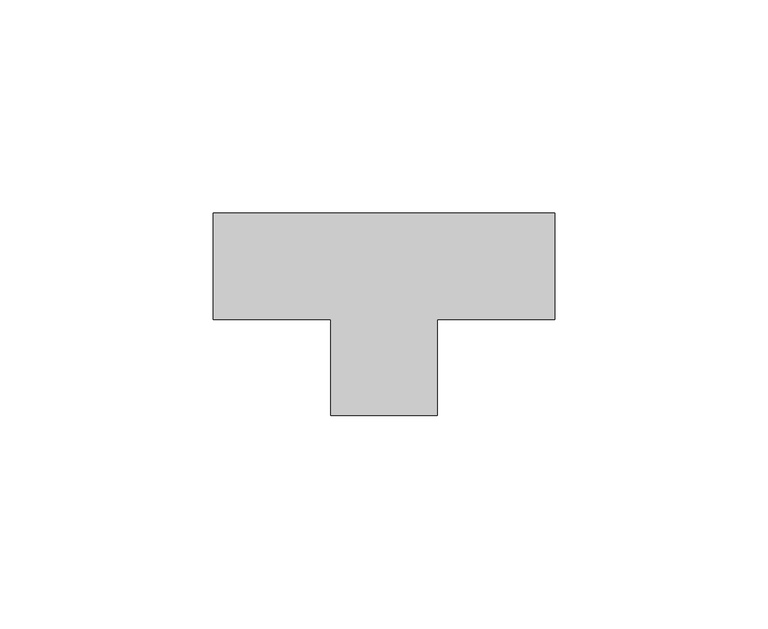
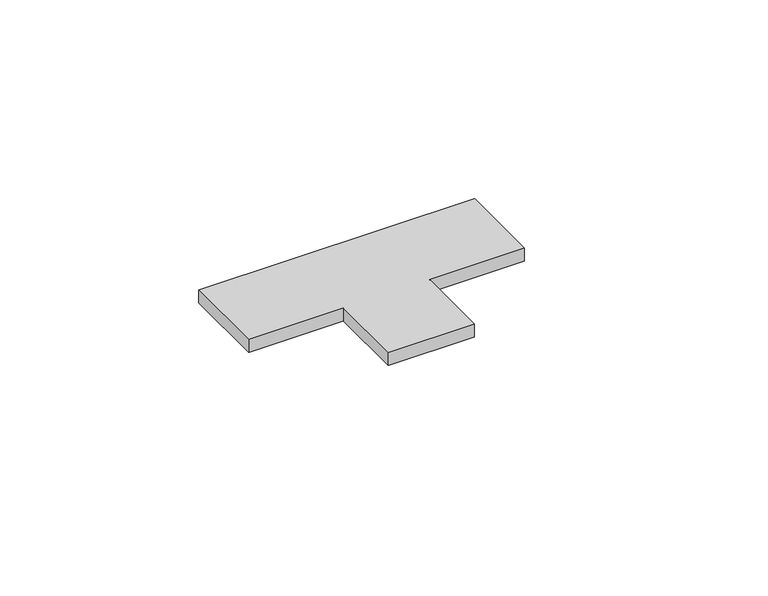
"""IFC4 building model written with IfcOpenShell, lengths in millimetres: duct fitting geometry, КНС_Тройник_Полоса_Неспецифицируемое_DKC : NG3105CU_Медь_80х70 мм."""

import ifcopenshell
import ifcopenshell.guid

model = None  # the IFC model being written
_history = None  # IfcOwnerHistory: only IFC2X3 demands one
_inside = {}  # id of a spatial element -> (the spatial element, [elements in it])
_under = {}  # id of a project, library or spatial element -> (it, [spatial elements below it])
_declared = {}  # id of a project -> (the project, [libraries it declares])
_typed = {}  # id of a type object -> (the type object, [elements of that type])
_made_of = {}  # id of a material, layer set ... -> (it, [elements and type objects made of it])


def new_model(schema):
    """Start an empty IFC model of exactly this schema.

    Asked for "IFC4X3", IfcOpenShell would pick the latest addendum, in which some entities
    have other attributes; the version numbers below select the first issue.
    IFC2X3 requires an IfcOwnerHistory on every rooted entity: one is made here for all.
    """
    global model, _history
    if schema == "IFC4X3":
        model = ifcopenshell.file(schema_version=(4, 3, 0, 0))
    else:
        model = ifcopenshell.file(schema=schema)
    _inside.clear()
    _under.clear()
    _declared.clear()
    _typed.clear()
    _made_of.clear()
    _history = None
    if model.schema == "IFC2X3":
        org = make("IfcOrganization", Name="unknown")
        user = make(
            "IfcPersonAndOrganization",
            ThePerson=make("IfcPerson", FamilyName="unknown"),
            TheOrganization=org,
        )
        app = make(
            "IfcApplication",
            ApplicationDeveloper=org,
            Version="unknown",
            ApplicationFullName="unknown",
            ApplicationIdentifier="unknown",
        )
        _history = make(
            "IfcOwnerHistory",
            OwningUser=user,
            OwningApplication=app,
            ChangeAction="ADDED",
            CreationDate=0,
        )
    return model


def make(cls, **values):
    """One entity of the class cls with the attributes given. An attribute that is None is left unset."""
    return model.create_entity(
        cls, **{name: value for name, value in values.items() if value is not None}
    )


def rooted(cls, **values):
    """An entity with a GlobalId (a new one), such as an element, a storey or a relation."""
    return make(cls, GlobalId=ifcopenshell.guid.new(), OwnerHistory=_history, **values)


def si_unit(unit_type, name, prefix=None):
    """IfcSIUnit, for example si_unit("LENGTHUNIT", "METRE", prefix="MILLI")."""
    return make("IfcSIUnit", UnitType=unit_type, Prefix=prefix, Name=name)


def assignment(units):
    """IfcUnitAssignment: the units of a project."""
    return None if units is None else make("IfcUnitAssignment", Units=units)


def point(xyz):
    """IfcCartesianPoint."""
    return None if xyz is None else make("IfcCartesianPoint", Coordinates=xyz)


def direction(xyz):
    """IfcDirection."""
    return None if xyz is None else make("IfcDirection", DirectionRatios=xyz)


def frame(location, z_axis=None, x_axis=None):
    """IfcAxis2Placement3D, a coordinate frame: its origin and axes. An axis left out is left unset."""
    return make(
        "IfcAxis2Placement3D",
        Location=point(location),
        Axis=direction(z_axis),
        RefDirection=direction(x_axis),
    )


def origin():
    """The frame at (0, 0, 0) with its axes left unset."""
    return frame((0.0, 0.0, 0.0))


def place(relative_to, where):
    """IfcLocalPlacement: puts the frame where relative to a parent placement (None: the world)."""
    return make(
        "IfcLocalPlacement", PlacementRelTo=relative_to, RelativePlacement=where
    )


def context(
    kind, dimensions, precision=None, world=None, true_north=None, identifier=None
):
    """IfcGeometricRepresentationContext, for example the 3D "Model" context."""
    return make(
        "IfcGeometricRepresentationContext",
        ContextIdentifier=identifier,
        ContextType=kind,
        CoordinateSpaceDimension=dimensions,
        Precision=precision,
        WorldCoordinateSystem=world,
        TrueNorth=true_north,
    )


def project(units=None, contexts=None):
    """IfcProject with its units and contexts."""
    return rooted(
        "IfcProject",
        Name="project",
        RepresentationContexts=contexts,
        UnitsInContext=assignment(units),
    )


def spatial(cls, under=None, at=None, **own):
    """A site, building, storey or space (cls), placed at a placement, below another one or the project."""
    s = rooted(cls, ObjectPlacement=at, **own)
    if under is not None:
        _under.setdefault(under.id(), (under, []))[1].append(s)
    return s


def polyline(points):
    """IfcPolyline through the points."""
    return make("IfcPolyline", Points=[point(p) for p in points])


def outline(outer, holes=None, kind="AREA"):
    """IfcArbitraryClosedProfileDef: a profile drawn as a closed curve; with holes, ...WithVoids."""
    if holes is None:
        return make("IfcArbitraryClosedProfileDef", ProfileType=kind, OuterCurve=outer)
    return make(
        "IfcArbitraryProfileDefWithVoids",
        ProfileType=kind,
        OuterCurve=outer,
        InnerCurves=holes,
    )


def extrude(swept, where, along, depth):
    """IfcExtrudedAreaSolid: the profile swept, set in the frame where, extruded along a direction by depth."""
    return make(
        "IfcExtrudedAreaSolid",
        SweptArea=swept,
        Position=where,
        ExtrudedDirection=direction(along),
        Depth=depth,
    )


def shape(context_of_items, identifier, shape_type, items):
    """IfcShapeRepresentation: the items that make up one representation, for example the "Body"."""
    return make(
        "IfcShapeRepresentation",
        ContextOfItems=context_of_items,
        RepresentationIdentifier=identifier,
        RepresentationType=shape_type,
        Items=items,
    )


def source(mapping_origin, context_of_items, identifier, shape_type, items):
    """IfcRepresentationMap: a shape defined once, which mapped items show again and again."""
    return make(
        "IfcRepresentationMap",
        MappingOrigin=mapping_origin,
        MappedRepresentation=shape(context_of_items, identifier, shape_type, items),
    )


def transform(
    local_origin,
    x_axis=None,
    y_axis=None,
    z_axis=None,
    scale=None,
    scale2=None,
    scale3=None,
    uniform=True,
):
    """IfcCartesianTransformationOperator3D, or its non-uniform kind. x_axis, y_axis, z_axis: its Axis1, 2, 3."""
    if uniform:
        return make(
            "IfcCartesianTransformationOperator3D",
            Axis1=direction(x_axis),
            Axis2=direction(y_axis),
            LocalOrigin=point(local_origin),
            Scale=scale,
            Axis3=direction(z_axis),
        )
    return make(
        "IfcCartesianTransformationOperator3DnonUniform",
        Axis1=direction(x_axis),
        Axis2=direction(y_axis),
        LocalOrigin=point(local_origin),
        Scale=scale,
        Axis3=direction(z_axis),
        Scale2=scale2,
        Scale3=scale3,
    )


def mapped(mapping_source, mapping_target):
    """IfcMappedItem: shows the shape of a source again, moved by a transform."""
    return make(
        "IfcMappedItem", MappingSource=mapping_source, MappingTarget=mapping_target
    )


def made_of(thing, what):
    """Note that an element or type object is made of a material, layer set ...; save() writes the relation."""
    if what is not None:
        _made_of.setdefault(what.id(), (what, []))[1].append(thing)
    return thing


def element(
    cls,
    number,
    at=None,
    inside=None,
    cuts=None,
    type_object=None,
    material=None,
    context=None,
    identifier="Body",
    shape_type=None,
    held_by="IfcProductDefinitionShape",
    body=None,
    shapes=None,
    **own,
):
    """One element of the class cls, such as IfcWall. Its Tag is "e" and its number.

    at: its placement. inside: the storey or other place that contains it. cuts: it is an
    opening in that element (IfcRelVoidsElement). A single representation is given by context,
    identifier, shape_type and body (its items); several are given by shapes. held_by: the class
    of the entity that holds the representations. save() writes the other relations.
    """
    e = rooted(cls, Tag="e%d" % number, ObjectPlacement=at, **own)
    if body is not None:
        shapes = [shape(context, identifier, shape_type, body)]
    if shapes is not None:
        e.Representation = make(held_by, Representations=shapes)
    if inside is not None:
        _inside.setdefault(inside.id(), (inside, []))[1].append(e)
    if cuts is not None:
        rooted(
            "IfcRelVoidsElement", RelatingBuildingElement=cuts, RelatedOpeningElement=e
        )
    if type_object is not None:
        _typed.setdefault(type_object.id(), (type_object, []))[1].append(e)
    return made_of(e, material)


def aggregate(whole, parts):
    """IfcRelAggregates: a whole, such as a stair, and the parts it consists of."""
    return rooted("IfcRelAggregates", RelatingObject=whole, RelatedObjects=parts)


def save(model, path):
    """Write the relations noted so far, then the file.

    IfcRelAggregates (storeys below a building ...), IfcRelContainedInSpatialStructure (elements
    in a storey), IfcRelDefinesByType, IfcRelAssociatesMaterial and IfcRelDeclares: one each for
    every whole, place, type object, material and project.
    """
    for whole, parts in _under.values():
        aggregate(whole, parts)
    for where, things in _inside.values():
        rooted(
            "IfcRelContainedInSpatialStructure",
            RelatedElements=things,
            RelatingStructure=where,
        )
    for kind, things in _typed.values():
        rooted("IfcRelDefinesByType", RelatedObjects=things, RelatingType=kind)
    for what, things in _made_of.values():
        rooted("IfcRelAssociatesMaterial", RelatedObjects=things, RelatingMaterial=what)
    for by, libraries in _declared.values():
        rooted("IfcRelDeclares", RelatingContext=by, RelatedDefinitions=libraries)
    model.write(path)


def duct_fitting_1aa216ad(model_context):
    return source(origin(), model_context, "Body", "SweptSolid", [
        extrude(outline(polyline([(-40.0, -12.5), (-40.0, 12.5), (40.0, 12.5), (40.0, -12.5), (12.5, -12.5), (12.5, -35.0), (-12.5, -35.0), (-12.5, -12.5), (-40.0, -12.5)])), frame((0.0, 0.0, -2.0), z_axis=(0.0, 0.0, 1.0), x_axis=(1.0, 0.0, 0.0)), (0.0, 0.0, 1.0), 4.0),
    ])


if __name__ == "__main__":
    model = new_model("IFC4")
    model_context = context("Model", 3, world=origin())
    ifc_project = project(units=[si_unit("LENGTHUNIT", "METRE", prefix="MILLI")], contexts=[model_context])
    site = spatial("IfcSite", under=ifc_project)
    building = spatial("IfcBuilding", under=site)
    placement = place(None, origin())
    duct_fitting_shape = duct_fitting_1aa216ad(model_context)
    element("IfcDuctFitting", 1, ObjectType="КНС_Тройник_Полоса_Неспецифицируемое_DKC : NG3105CU_Медь_80х70 мм", at=placement, inside=building, context=model_context, shape_type="MappedRepresentation", body=[
        mapped(duct_fitting_shape, transform((0.0, 0.0, 0.0), x_axis=(1.0, 0.0, 0.0), y_axis=(0.0, 1.0, 0.0), z_axis=(0.0, 0.0, 1.0))),
    ])
    save(model, "model.ifc")
